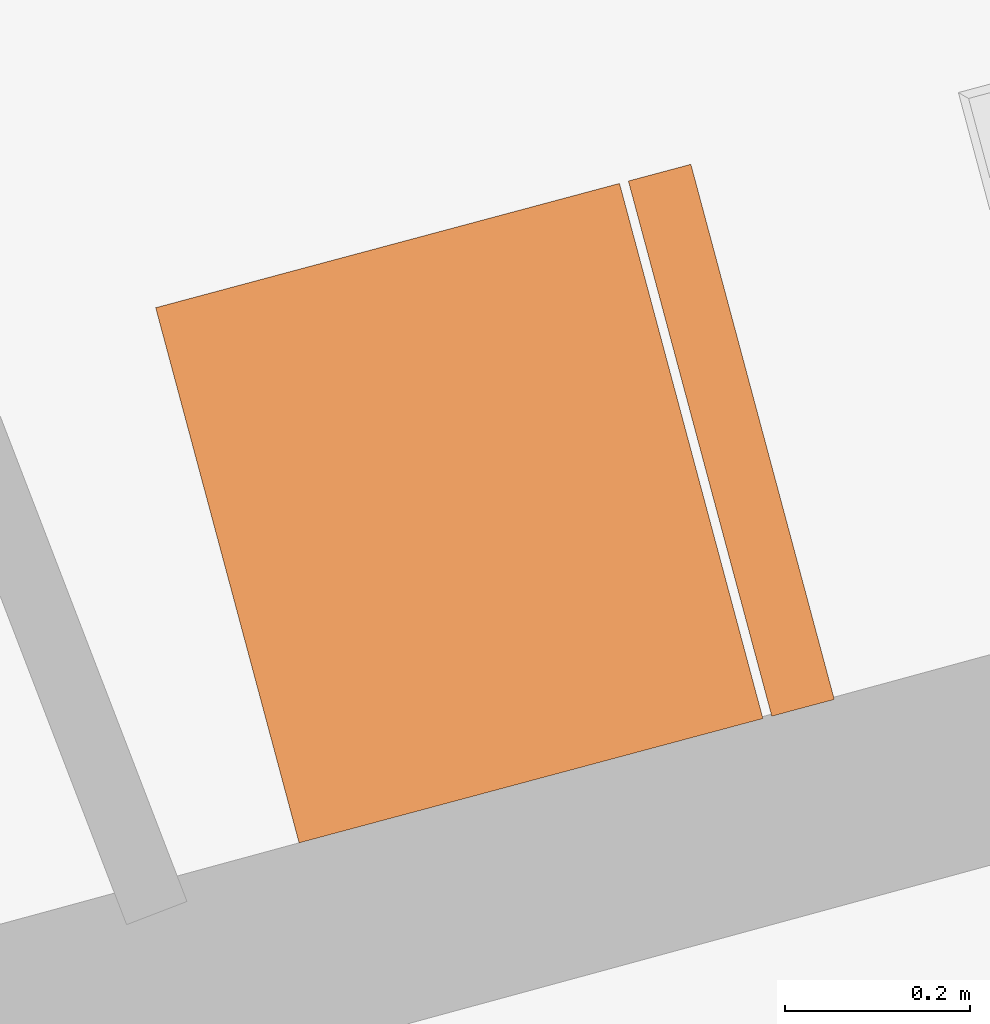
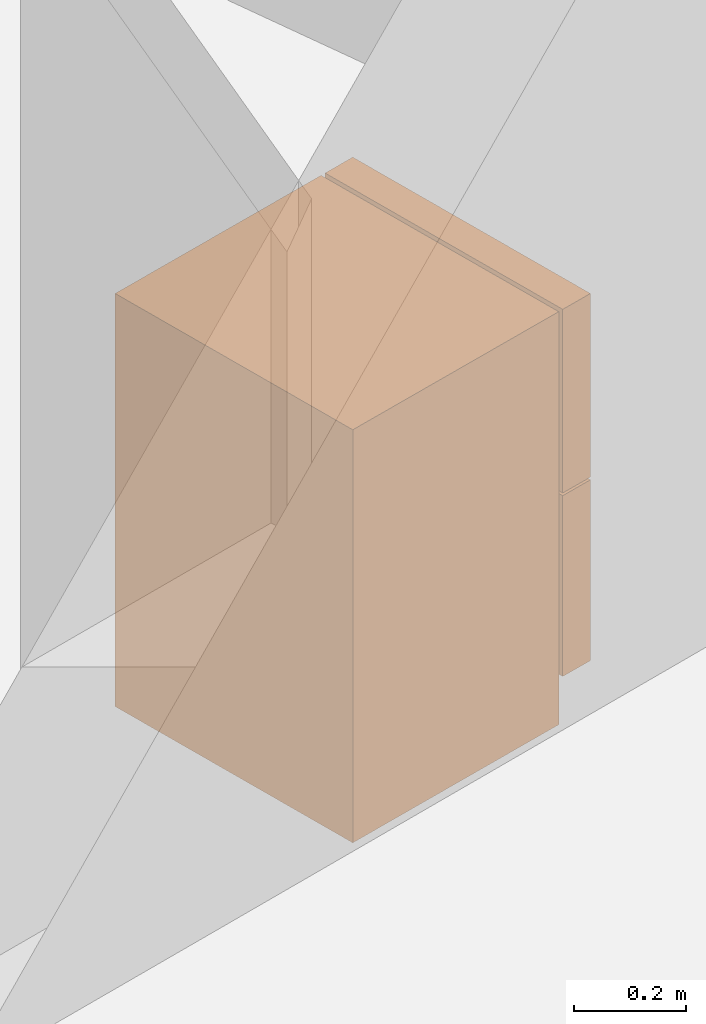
# One storey, part 179 of 195: 1 proxy.
"""IFC2X3 building model written with IfcOpenShell, lengths in metres."""

from ifc_helpers import new_model, entity, si_unit, converted_unit, derived_unit, money_unit, direction, frame, origin_with_axes, place, context, subcontext, project, spatial, open_shell, faceted_brep, surface_model, source, transform, mapped, type_object, element, save


model = new_model("IFC2X3")

# Units and contexts
model_context = context("Model", 3, precision=1e-05, world=origin_with_axes(), true_north=direction((0.0, 1.0)))
body_context = subcontext(model_context, "Body", "Model", "MODEL_VIEW")
ifc_project = project(units=[si_unit("LENGTHUNIT", "METRE"), si_unit("AREAUNIT", "SQUARE_METRE"), si_unit("VOLUMEUNIT", "CUBIC_METRE"), converted_unit("PLANEANGLEUNIT", "DEGREE", entity("IfcPlaneAngleMeasure", 0.0174532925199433), si_unit("PLANEANGLEUNIT", "RADIAN"), dimensions=[0, 0, 0, 0, 0, 0, 0]), money_unit("CHF"), converted_unit("TIMEUNIT", "Year", entity("IfcTimeMeasure", 31557600.0), si_unit("TIMEUNIT", "SECOND"), dimensions=[0, 0, 1, 0, 0, 0, 0]), si_unit("MASSUNIT", "GRAM", prefix="KILO"), si_unit("THERMODYNAMICTEMPERATUREUNIT", "DEGREE_CELSIUS"), si_unit("LUMINOUSINTENSITYUNIT", "LUMEN"), si_unit("ENERGYUNIT", "JOULE", prefix="MEGA"), derived_unit("THERMALCONDUCTANCEUNIT", [(si_unit("POWERUNIT", "WATT"), 1), (si_unit("LENGTHUNIT", "METRE"), -1), (si_unit("THERMODYNAMICTEMPERATUREUNIT", "KELVIN"), -1)]), derived_unit("SPECIFICHEATCAPACITYUNIT", [(si_unit("ENERGYUNIT", "JOULE"), 1), (si_unit("MASSUNIT", "GRAM", prefix="KILO"), -1), (si_unit("THERMODYNAMICTEMPERATUREUNIT", "KELVIN"), -1)]), derived_unit("MASSDENSITYUNIT", [(si_unit("MASSUNIT", "GRAM", prefix="KILO"), 1), (si_unit("VOLUMEUNIT", "CUBIC_METRE"), -1)])], contexts=[model_context])

# Site, building, storey
site_placement = place(None, origin_with_axes())
site = spatial("IfcSite", under=ifc_project, at=site_placement, Name="Site", CompositionType="ELEMENT")
building_placement = place(site_placement, origin_with_axes())
building = spatial("IfcBuilding", under=site, at=building_placement, Name="Bâtiment", CompositionType="ELEMENT")
storey_placement = place(building_placement, origin_with_axes())
storey = spatial("IfcBuildingStorey", under=building, at=storey_placement, Name="rdc", CompositionType="ELEMENT", Elevation=0.0)

# Proxy
building_element_proxy_type = type_object("IfcBuildingElementProxyType", PredefinedType="NOTDEFINED")
shared_shape = source(origin_with_axes(), body_context, "Body", "SurfaceModel", [
    faceted_brep([(0.0, 0.08, 0.1), (0.6, 0.08, 0.1), (0.6, 0.08, 0.9), (0.0, 0.08, 0.9), (0.0, 0.6, 0.1), (0.6, 0.6, 0.1), (0.6, 0.6, 0.9), (0.0, 0.6, 0.9)], [[[0, 1, 2, 3]], [[0, 4, 5, 1]], [[1, 5, 6, 2]], [[3, 2, 6, 7]], [[4, 0, 3, 7]], [[5, 4, 7, 6]]]),
    faceted_brep([(0.0, 0.08, 0.0), (0.6, 0.08, 0.0), (0.6, 0.08, 0.1), (0.0, 0.08, 0.1), (0.0, 0.6, 0.0), (0.6, 0.6, 0.0), (0.6, 0.6, 0.1), (0.0, 0.6, 0.1)], [[[0, 1, 2, 3]], [[0, 4, 5, 1]], [[1, 5, 6, 2]], [[3, 2, 6, 7]], [[4, 0, 3, 7]], [[5, 4, 7, 6]]]),
    faceted_brep([(0.0, 0.07, 0.1), (0.6, 0.07, 0.1), (0.6, 0.0, 0.1), (0.0, 0.0, 0.1), (0.0, 0.07000000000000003, 0.494), (0.6, 0.07000000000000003, 0.494), (0.6, 0.0, 0.494), (0.0, 0.0, 0.494)], [[[0, 1, 2, 3]], [[0, 4, 5, 1]], [[1, 5, 6, 2]], [[3, 2, 6, 7]], [[4, 0, 3, 7]], [[5, 4, 7, 6]]]),
    faceted_brep([(0.0, 0.07, 0.5), (0.6, 0.07, 0.5), (0.6, 0.0, 0.5), (0.0, 0.0, 0.5), (0.0, 0.07000000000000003, 0.9), (0.6, 0.07000000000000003, 0.9), (0.6, 0.0, 0.9), (0.0, 0.0, 0.9)], [[[0, 1, 2, 3]], [[0, 4, 5, 1]], [[1, 5, 6, 2]], [[3, 2, 6, 7]], [[4, 0, 3, 7]], [[5, 4, 7, 6]]]),
    surface_model("IfcShellBasedSurfaceModel", [(0.6, -0.03, 0.3), (0.6, -0.03, 0.4940000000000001), (0.6, 0.0, 0.4940000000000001), (0.6, 0.0, 0.3)], [open_shell([[[0, 1, 2, 3]]])]),
    surface_model("IfcShellBasedSurfaceModel", [(0.6, -0.03, 0.3), (0.6, -0.03, 0.4940000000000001), (0.57, -0.03, 0.4940000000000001), (0.57, -0.03, 0.3)], [open_shell([[[0, 1, 2, 3]]])]),
    surface_model("IfcShellBasedSurfaceModel", [(0.6, -0.03, 0.5), (0.6, -0.03, 0.7), (0.6, 0.0, 0.7), (0.6, 0.0, 0.5)], [open_shell([[[0, 1, 2, 3]]])]),
    surface_model("IfcShellBasedSurfaceModel", [(0.6, -0.03, 0.5), (0.6, -0.03, 0.7), (0.57, -0.03, 0.7), (0.57, -0.03, 0.5)], [open_shell([[[0, 1, 2, 3]]])]),
])
proxy_placement = place(storey_placement, frame((9592.401496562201, -1045.444323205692, 57.49999999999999), z_axis=(0.0, 0.0, 1.0), x_axis=(-0.2588474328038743, 0.9659182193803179, 0.0)))
element("IfcBuildingElementProxy", 1, at=proxy_placement, inside=storey, type_object=building_element_proxy_type, Name="Obj.-019", context=body_context, shape_type="MappedRepresentation", body=[
    mapped(shared_shape, transform((0.0, 0.0, 0.0))),
])

save(model, "model.ifc")
